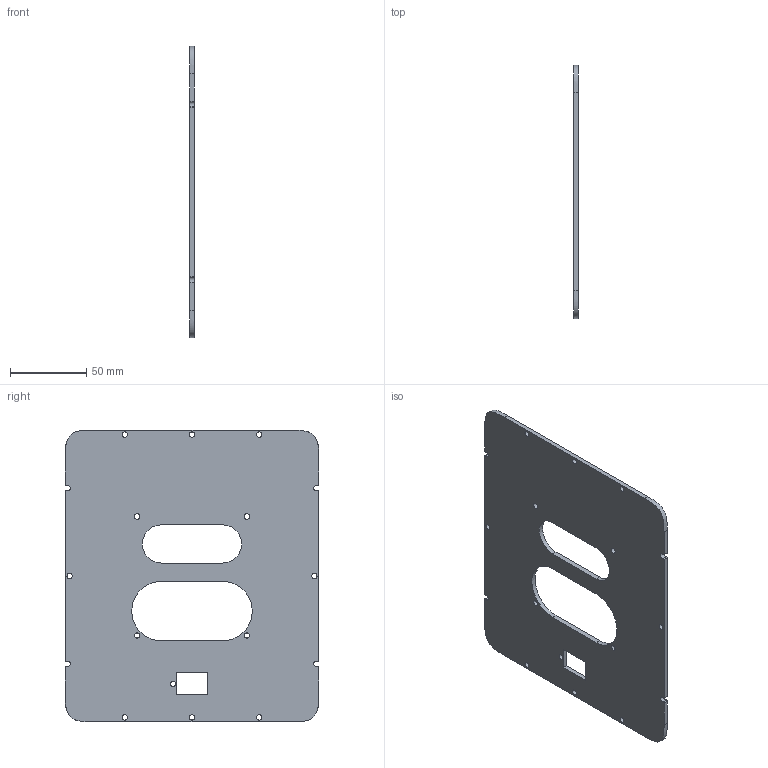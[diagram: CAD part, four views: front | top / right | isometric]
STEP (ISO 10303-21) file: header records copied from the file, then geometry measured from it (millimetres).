
FILE_DESCRIPTION(/* description */ (''),/* implementation_level */ '2;1');
FILE_NAME(/* name */ 'BACK INTERNAL PANEL.step',/* time_stamp */ '2024-02-28T17:31:17Z',/* author */ (''),/* organization */ (''),/* preprocessor_version */ 'ST-DEVELOPER v20',/* originating_system */ 'Autodesk Translation Framework v12.20.1.177',/* authorisation */ '');
FILE_SCHEMA (('AUTOMOTIVE_DESIGN { 1 0 10303 214 3 1 1 }'));
Length unit declared in the file: millimetre
Products named in the file (1): BACK INTERNAL PANEL
Bounding box: 3 x 166.22 x 191.22 mm (x, y, z)
Volume: 81066.1 mm3; surface area: 57760.4 mm2
Topology: 1 solids, 1 shells, 51 faces, 147 edges, 98 vertices
Faces by surface type: cylinder 29, plane 18, bspline 4
Full cylindrical faces by diameter (mm): 3.45 x2, 3.5 x9, 3.75 x2
Entity records: 2019 total; most frequent: CARTESIAN_POINT 541, ORIENTED_EDGE 294, DIRECTION 293, EDGE_CURVE 147, AXIS2_PLACEMENT_3D 106, VERTEX_POINT 98, EDGE_LOOP 83, LINE 81
